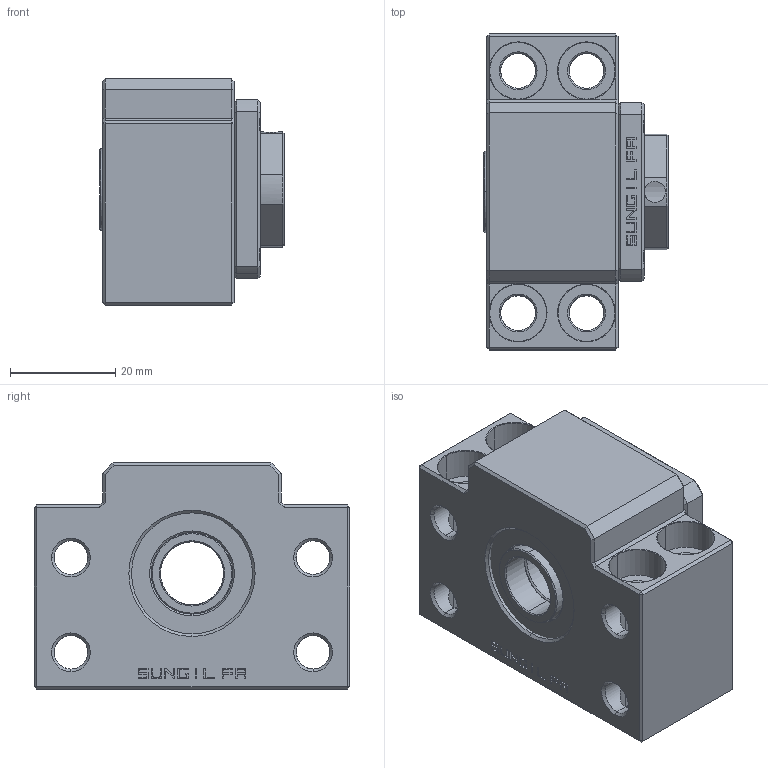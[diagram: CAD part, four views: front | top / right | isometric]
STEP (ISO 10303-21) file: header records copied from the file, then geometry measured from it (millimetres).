
FILE_DESCRIPTION (( 'STEP AP203' ), '1' );
FILE_NAME ('SBK12_STP.STEP', '2006-01-20T11:36:06', ( '歜煽繹' ), ( '' ), 'SwSTEP 2.0', 'SolidWorks 2003240', '' );
FILE_SCHEMA (( 'CONFIG_CONTROL_DESIGN' ));
Length unit declared in the file: millimetre
Products named in the file (10): SBK12(locknut)_晦獄 撲薑; SBK12(holdinglid)_晦獄 撲薑; SBK12_STP; SBK12(collar)1_晦獄 撲薑; SBK12(seal)1_晦獄 撲薑; SBK12(collar)_晦獄 撲薑; SBK12(housing)_晦獄 撲薑; SBK12(bearing)1_晦獄 撲薑; SBK12(seal)_晦獄 撲薑; SBK12(bearing)_晦獄 撲薑
Assembly tree (9 placements, depth 2):
  SBK12_STP
    SBK12(seal)1_晦獄 撲薑
    SBK12(seal)_晦獄 撲薑
    SBK12(housing)_晦獄 撲薑
    SBK12(collar)1_晦獄 撲薑
    SBK12(holdinglid)_晦獄 撲薑
    SBK12(collar)_晦獄 撲薑
    SBK12(locknut)_晦獄 撲薑
    SBK12(bearing)1_晦獄 撲薑
    SBK12(bearing)_晦獄 撲薑
Bounding box: 35 x 60 x 43 mm (x, y, z)
Volume: 51853.7 mm3; surface area: 26213.3 mm2
Topology: 9 solids, 9 shells, 857 faces, 2217 edges, 1410 vertices
Faces by surface type: plane 363, cylinder 342, cone 152
Entity records: 28724 total; most frequent: CARTESIAN_POINT 6040, DIRECTION 4724, ORIENTED_EDGE 4434, EDGE_CURVE 2217, AXIS2_PLACEMENT_3D 1714, VERTEX_POINT 1410, VECTOR 1296, LINE 1296
